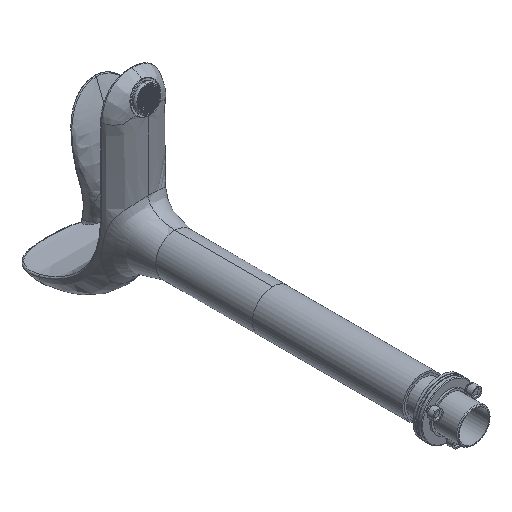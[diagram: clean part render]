
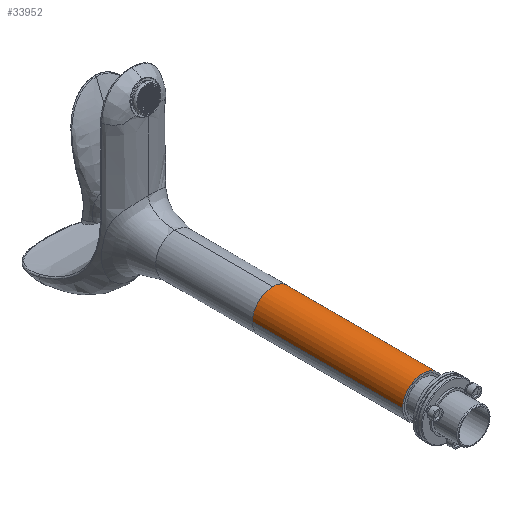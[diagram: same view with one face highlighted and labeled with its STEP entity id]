
A CAD part, isometric view. The second image highlights one B-rep face of the part: STEP entity #33952.
In plain terms, the highlighted cylindrical face has radius 17 mm (diameter 34 mm), a partial arc.
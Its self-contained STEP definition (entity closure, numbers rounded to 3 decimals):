
#33829=DIRECTION('',(0.,-1.,0.));
#33830=VECTOR('',#33829,126.);
#33831=CARTESIAN_POINT('',(17.,126.,0.));
#33832=LINE('',#33831,#33830);
#33833=DIRECTION('',(0.,-1.,0.));
#33834=VECTOR('',#33833,126.);
#33835=CARTESIAN_POINT('',(-17.,126.,0.));
#33836=LINE('',#33835,#33834);
#33852=CARTESIAN_POINT('',(0.,126.,0.));
#33853=DIRECTION('',(0.,-1.,0.));
#33854=DIRECTION('',(1.,0.,0.));
#33855=AXIS2_PLACEMENT_3D('',#33852,#33853,#33854);
#33903=CARTESIAN_POINT('',(0.,0.,0.));
#33904=DIRECTION('',(0.,1.,0.));
#33905=DIRECTION('',(-1.,0.,0.));
#33906=AXIS2_PLACEMENT_3D('',#33903,#33904,#33905);
#33913=CARTESIAN_POINT('',(17.,126.,0.));
#33914=CARTESIAN_POINT('',(17.,0.,0.));
#33915=VERTEX_POINT('',#33913);
#33916=VERTEX_POINT('',#33914);
#33917=CARTESIAN_POINT('',(-17.,0.,0.));
#33918=VERTEX_POINT('',#33917);
#33919=CARTESIAN_POINT('',(-17.,126.,0.));
#33920=VERTEX_POINT('',#33919);
#33937=CARTESIAN_POINT('',(0.,139.65,0.));
#33938=DIRECTION('',(0.,-1.,0.));
#33939=DIRECTION('',(-1.,0.,0.));
#33940=AXIS2_PLACEMENT_3D('',#33937,#33938,#33939);
#33941=CYLINDRICAL_SURFACE('',#33940,17.);
#33943=ORIENTED_EDGE('',*,*,#33942,.T.);
#33945=ORIENTED_EDGE('',*,*,#33944,.F.);
#33947=ORIENTED_EDGE('',*,*,#33946,.F.);
#33949=ORIENTED_EDGE('',*,*,#33948,.F.);
#33950=EDGE_LOOP('',(#33943,#33945,#33947,#33949));
#33951=FACE_OUTER_BOUND('',#33950,.F.);
#33952=ADVANCED_FACE('',(#33951),#33941,.T.);
#33856=CIRCLE('',#33855,17.);
#33907=CIRCLE('',#33906,17.);
#33942=EDGE_CURVE('',#33915,#33916,#33832,.T.);
#33944=EDGE_CURVE('',#33918,#33916,#33907,.T.);
#33946=EDGE_CURVE('',#33920,#33918,#33836,.T.);
#33948=EDGE_CURVE('',#33915,#33920,#33856,.T.);
